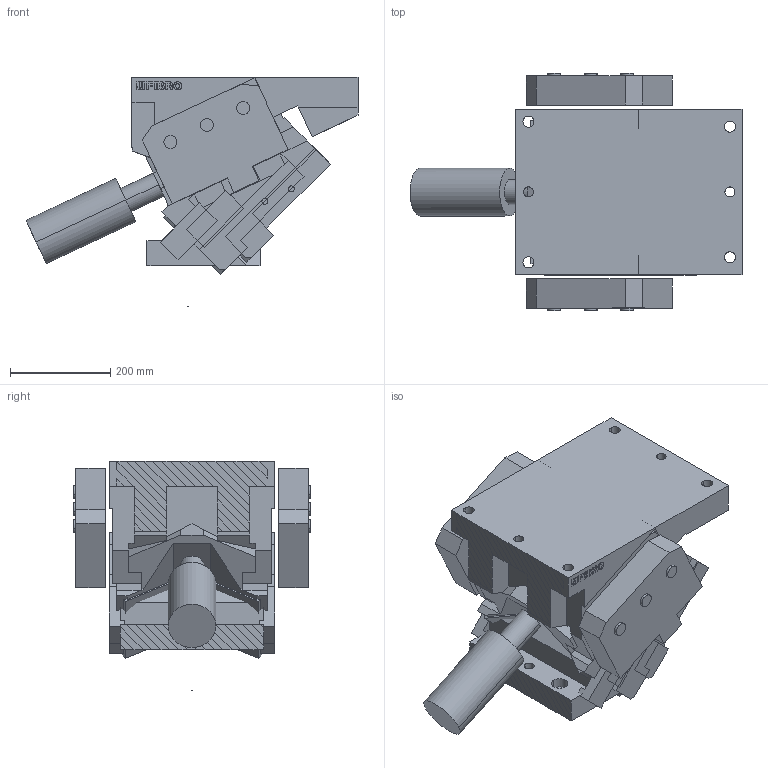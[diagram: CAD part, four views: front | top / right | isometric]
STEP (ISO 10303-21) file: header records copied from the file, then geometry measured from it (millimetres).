
FILE_DESCRIPTION(('CATIA V5 STEP','CAx-IF Rec.Pracs.--- Model Styling and Organization---1.5--- 2016-08-15','CAx-IF Rec.Pracs.---Supplemental Geometry---1.0---2011-11-01','CAx-IF Rec.Pracs.---Representation and Presentation of Product Manufacturing Information (PMI)---2.3---2014-10-13','CAx-IF Rec.Pracs.--- Composite Materials ---1.1---2010-07-15'),'2;1');
FILE_NAME('C:\Users\meyer\Desktop\step\2016.24.033.45.2000.00_b.stp','2024-06-13T06:24:04+00:00',('none'),('none'),'CATIA Version 5-6 Release 2022 SP4 HF8','CATIA V5 STEP AP214 Edition 3 v3','none');
FILE_SCHEMA(('AUTOMOTIVE_DESIGN { 1 0 10303 214 3 1 1 1 }'));
Length unit declared in the file: millimetre
Products named in the file (1): 2016.24.033.45.2000.00_b
Bounding box: 660.79 x 472 x 456.85 mm (x, y, z)
Volume: 53689268 mm3; surface area: 2302055.6 mm2
Topology: 10 solids, 10 shells, 481 faces, 1394 edges, 1060 vertices
Faces by surface type: plane 385, cylinder 94, cone 2
Entity records: 27116 total; most frequent: CARTESIAN_POINT 13263, ORIENTED_EDGE 2754, DIRECTION 1860, EDGE_CURVE 1377, VECTOR 1160, LINE 1160, VERTEX_POINT 971, EDGE_LOOP 560
